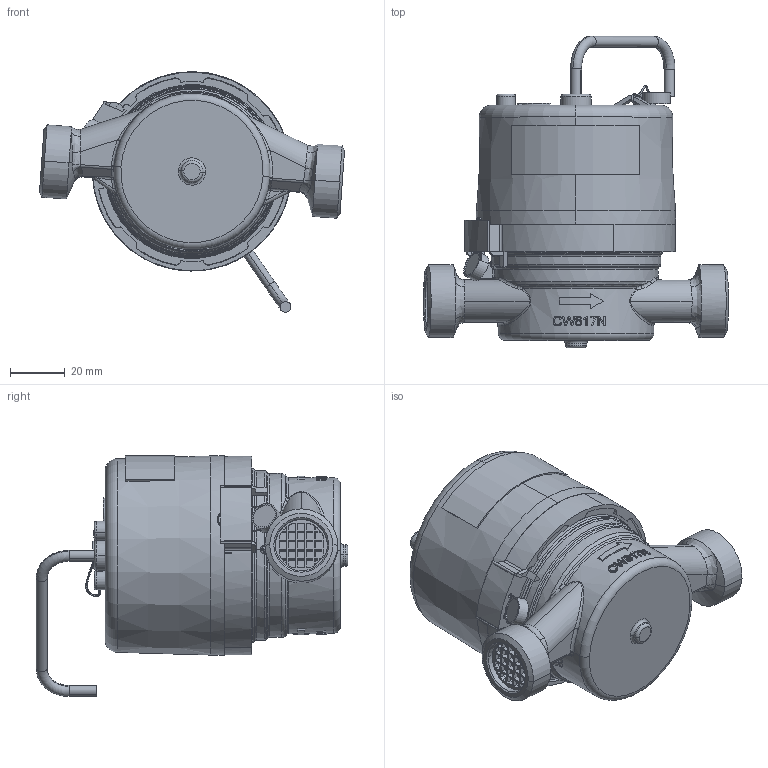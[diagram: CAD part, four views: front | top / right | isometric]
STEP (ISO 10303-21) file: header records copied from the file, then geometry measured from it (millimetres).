
FILE_DESCRIPTION (( 'STEP AP214' ), '1' );
FILE_NAME ('JS90-2,5-NC.STEP', '2025-08-01T07:25:39', ( '' ), ( '' ), 'SwSTEP 2.0', 'SolidWorks 2019', '' );
FILE_SCHEMA (( 'AUTOMOTIVE_DESIGN' ));
Length unit declared in the file: millimetre
Products named in the file (1): JS90-2,5-NC
Bounding box: 111.35 x 113.81 x 87.96 mm (x, y, z)
Volume: 259153.7 mm3; surface area: 84779.1 mm2
Topology: 15 solids, 24 shells, 1300 faces, 3475 edges, 2202 vertices
Faces by surface type: plane 628, cylinder 351, bspline 140, cone 89, torus 84, sphere 8
Entity records: 62537 total; most frequent: CARTESIAN_POINT 16231, ORIENTED_EDGE 6918, DIRECTION 6560, EDGE_CURVE 3459, AXIS2_PLACEMENT_3D 2394, VERTEX_POINT 2202, VECTOR 1772, LINE 1772
